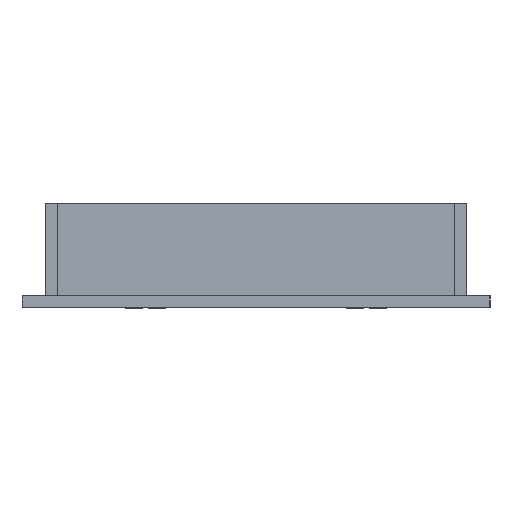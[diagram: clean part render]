
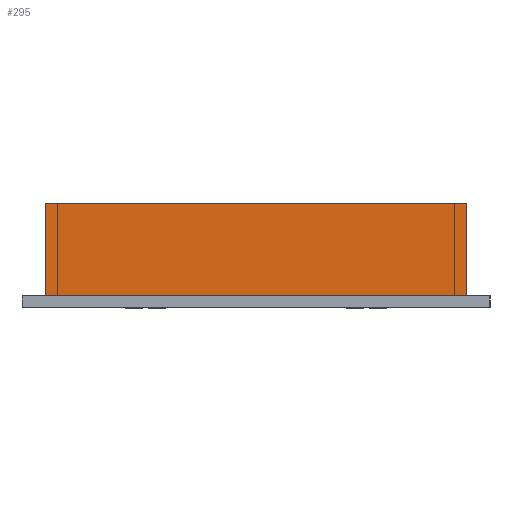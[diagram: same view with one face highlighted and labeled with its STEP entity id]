
A CAD part, left-side view. The second image highlights one B-rep face of the part: STEP entity #295.
In plain terms, the highlighted planar face has unit normal (-1, 0, 0).
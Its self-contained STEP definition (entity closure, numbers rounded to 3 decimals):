
#295=ADVANCED_FACE('',(#774),#7256,.T.);
#774=FACE_OUTER_BOUND('',#1280,.T.);
#1280=EDGE_LOOP('',(#2116,#2117,#2118,#2119));
#2116=ORIENTED_EDGE('',*,*,#4285,.T.);
#2117=ORIENTED_EDGE('',*,*,#4274,.T.);
#2118=ORIENTED_EDGE('',*,*,#4275,.F.);
#2119=ORIENTED_EDGE('',*,*,#4276,.F.);
#4274=EDGE_CURVE('',#6585,#6578,#5351,.T.);
#4275=EDGE_CURVE('',#6579,#6578,#5352,.T.);
#4276=EDGE_CURVE('',#6584,#6579,#5353,.T.);
#4285=EDGE_CURVE('',#6584,#6585,#5362,.T.);
#5351=B_SPLINE_CURVE_WITH_KNOTS('',1,(#11105,#11106),.UNSPECIFIED.,.F.,
 .F.,(2,2),(0.,25.),.UNSPECIFIED.);
#5352=B_SPLINE_CURVE_WITH_KNOTS('',1,(#11107,#11108),.UNSPECIFIED.,.F.,
 .F.,(2,2),(-3248.564,-3134.564),.UNSPECIFIED.);
#5353=B_SPLINE_CURVE_WITH_KNOTS('',1,(#11109,#11110),.UNSPECIFIED.,.F.,
 .F.,(2,2),(0.,25.),.UNSPECIFIED.);
#5362=B_SPLINE_CURVE_WITH_KNOTS('',1,(#11127,#11128),.UNSPECIFIED.,.F.,
 .F.,(2,2),(-3248.564,-3134.564),.UNSPECIFIED.);
#6578=VERTEX_POINT('',#10795);
#6579=VERTEX_POINT('',#10796);
#6584=VERTEX_POINT('',#10801);
#6585=VERTEX_POINT('',#10802);
#7256=PLANE('',#7845);
#7845=AXIS2_PLACEMENT_3D('',#10647,#8223,$);
#8223=DIRECTION('',(-1.,0.,0.));
#10647=CARTESIAN_POINT('',(6.5,-6.5,3.));
#10795=CARTESIAN_POINT('',(6.5,-120.5,28.));
#10796=CARTESIAN_POINT('',(6.5,-6.5,28.));
#10801=CARTESIAN_POINT('',(6.5,-6.5,3.));
#10802=CARTESIAN_POINT('',(6.5,-120.5,3.));
#11105=CARTESIAN_POINT('',(6.5,-120.5,3.));
#11106=CARTESIAN_POINT('',(6.5,-120.5,28.));
#11107=CARTESIAN_POINT('',(6.5,-6.5,28.));
#11108=CARTESIAN_POINT('',(6.5,-120.5,28.));
#11109=CARTESIAN_POINT('',(6.5,-6.5,3.));
#11110=CARTESIAN_POINT('',(6.5,-6.5,28.));
#11127=CARTESIAN_POINT('',(6.5,-6.5,3.));
#11128=CARTESIAN_POINT('',(6.5,-120.5,3.));
